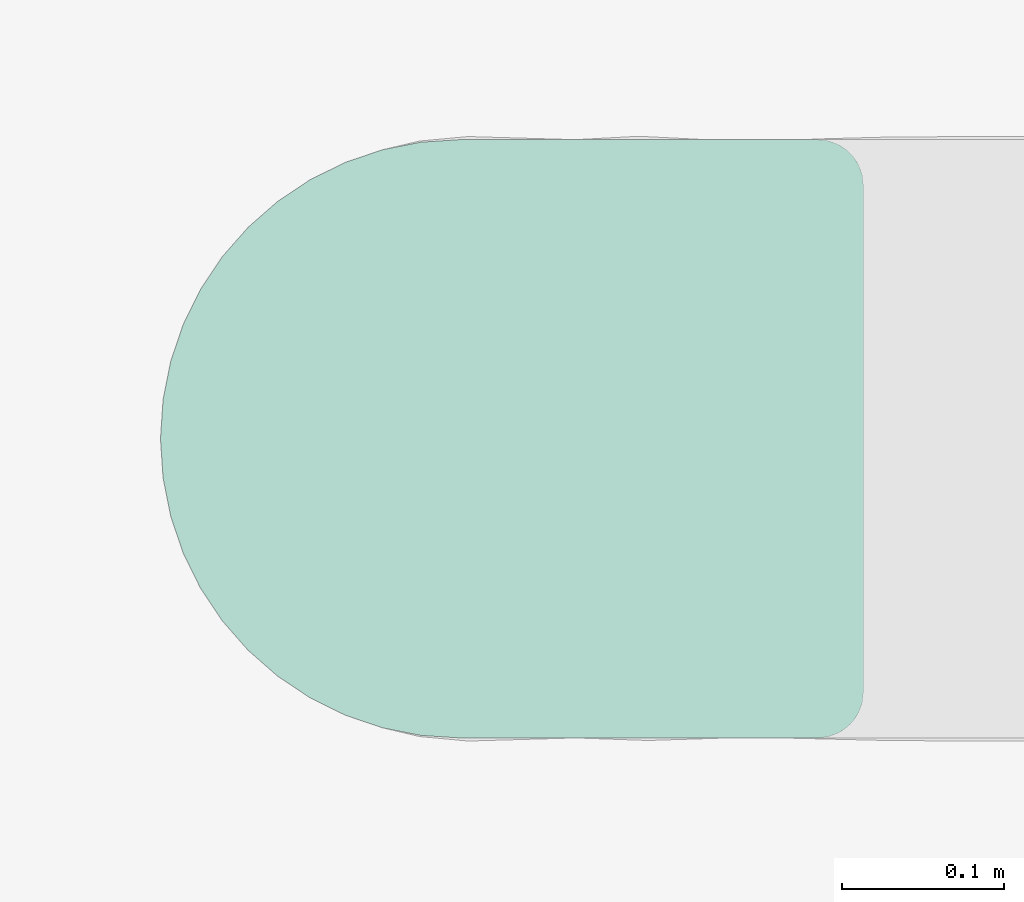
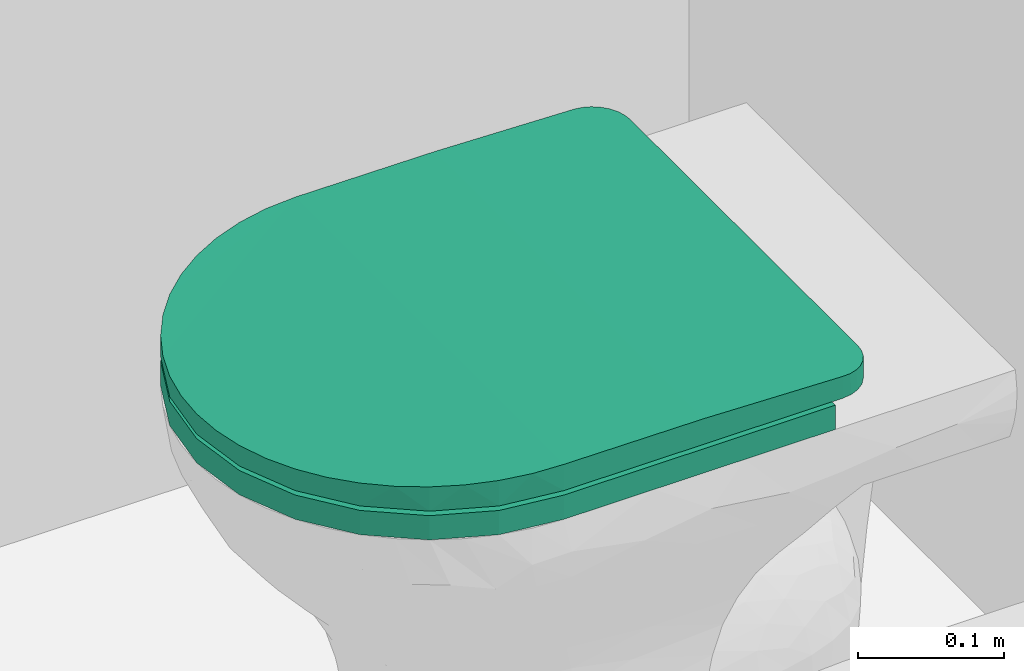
# One storey, part 6 of 8: 1 flow terminal.
"""IFC2X3 building model written with IfcOpenShell, lengths in metres."""

from ifc_helpers import new_model, entity, si_unit, converted_unit, derived_unit, direction, frame, origin, place, context, subcontext, project, spatial, faceted_brep, source, transform, mapped, material, element, save


model = new_model("IFC2X3")

# Units and contexts
model_context = context("Model", 3, precision=1e-05, world=origin(), true_north=direction((6.12303176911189e-17, 1.0)))
body_context = subcontext(model_context, "Body", "Model", "MODEL_VIEW")
ifc_project = project(units=[si_unit("LENGTHUNIT", "METRE"), si_unit("AREAUNIT", "SQUARE_METRE"), si_unit("VOLUMEUNIT", "CUBIC_METRE"), converted_unit("PLANEANGLEUNIT", "DEGREE", entity("IfcRatioMeasure", 0.0174532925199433), si_unit("PLANEANGLEUNIT", "RADIAN"), dimensions=[0, 0, 0, 0, 0, 0, 0]), si_unit("MASSUNIT", "GRAM", prefix="KILO"), derived_unit("MASSDENSITYUNIT", [(si_unit("MASSUNIT", "GRAM", prefix="KILO"), 1), (si_unit("LENGTHUNIT", "METRE"), -3)]), si_unit("TIMEUNIT", "SECOND"), si_unit("FREQUENCYUNIT", "HERTZ"), si_unit("THERMODYNAMICTEMPERATUREUNIT", "DEGREE_CELSIUS"), derived_unit("THERMALTRANSMITTANCEUNIT", [(si_unit("MASSUNIT", "GRAM", prefix="KILO"), 1), (si_unit("THERMODYNAMICTEMPERATUREUNIT", "KELVIN"), -1), (si_unit("TIMEUNIT", "SECOND"), -3)]), derived_unit("VOLUMETRICFLOWRATEUNIT", [(si_unit("LENGTHUNIT", "METRE"), 3), (si_unit("TIMEUNIT", "SECOND"), -1)]), si_unit("ELECTRICCURRENTUNIT", "AMPERE"), si_unit("ELECTRICVOLTAGEUNIT", "VOLT"), si_unit("POWERUNIT", "WATT"), si_unit("FORCEUNIT", "NEWTON", prefix="KILO"), si_unit("ILLUMINANCEUNIT", "LUX"), si_unit("LUMINOUSFLUXUNIT", "LUMEN"), si_unit("LUMINOUSINTENSITYUNIT", "CANDELA"), derived_unit("USERDEFINED", [(si_unit("MASSUNIT", "GRAM", prefix="KILO"), -1), (si_unit("LENGTHUNIT", "METRE"), -2), (si_unit("TIMEUNIT", "SECOND"), 3), (si_unit("LUMINOUSFLUXUNIT", "LUMEN"), 1)]), derived_unit("LINEARVELOCITYUNIT", [(si_unit("LENGTHUNIT", "METRE"), 1), (si_unit("TIMEUNIT", "SECOND"), -1)]), si_unit("PRESSUREUNIT", "PASCAL"), derived_unit("USERDEFINED", [(si_unit("LENGTHUNIT", "METRE"), -2), (si_unit("MASSUNIT", "GRAM", prefix="KILO"), 1), (si_unit("TIMEUNIT", "SECOND"), -2)])], contexts=[model_context])

# Site, building, storey, space
site_placement = place(None, origin())
site = spatial("IfcSite", under=ifc_project, at=site_placement, Name="Surface", CompositionType="ELEMENT")
building_placement = place(site_placement, origin())
building = spatial("IfcBuilding", under=site, at=building_placement, CompositionType="ELEMENT")
storey_placement = place(building_placement, origin())
storey = spatial("IfcBuildingStorey", under=building, at=storey_placement, Name="Nivel 0.0", CompositionType="ELEMENT", Elevation=0.0)
space_placement = place(storey_placement, origin())
space = spatial("IfcSpace", under=storey, at=space_placement, Name="6", CompositionType="ELEMENT", InteriorOrExteriorSpace="INTERNAL")

# Flow terminal
ifc_material = material(Name="Plastico - Ferrum - Urea - Blanco")
shared_shape = source(origin(), body_context, "Body", "Brep", [
    faceted_brep([(0.00159527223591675, 0.400390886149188, 0.0202499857), (0.00159527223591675, 0.400390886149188, 0.0), (0.00159527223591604, 0.185797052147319, 0.0), (0.00159527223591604, 0.185797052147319, 0.0202499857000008), (0.369998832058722, 0.185797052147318, 0.0), (0.369998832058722, 0.400390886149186, 0.0), (0.369998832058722, 0.400390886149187, 0.0202499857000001), (0.369998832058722, 0.185797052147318, 0.0202499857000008), (0.363722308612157, 0.138122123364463, 0.0202499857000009), (0.00787179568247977, 0.138122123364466, 0.0202499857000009), (0.0262736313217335, 0.0936961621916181, 0.0202499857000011), (0.0555467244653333, 0.0555467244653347, 0.0202499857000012), (0.0936961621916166, 0.0262736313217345, 0.0202499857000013), (0.138122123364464, 0.00787179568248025, 0.0202499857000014), (0.185797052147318, 0.00159527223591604, 0.0202499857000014), (0.233471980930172, 0.00787179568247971, 0.0202499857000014), (0.277897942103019, 0.0262736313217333, 0.0202499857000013), (0.316047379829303, 0.0555467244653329, 0.0202499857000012), (0.345320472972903, 0.0936961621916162, 0.0202499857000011), (0.363722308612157, 0.138122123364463, 0.0), (0.345320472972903, 0.0936961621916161, 0.0), (0.316047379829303, 0.055546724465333, 0.0), (0.277897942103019, 0.0262736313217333, 0.0), (0.233471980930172, 0.00787179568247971, 0.0), (0.185797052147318, 0.00159527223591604, 0.0), (0.138122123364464, 0.00787179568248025, 0.0), (0.0936961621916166, 0.0262736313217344, 0.0), (0.0555467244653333, 0.0555467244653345, 0.0), (0.0262736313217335, 0.0936961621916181, 0.0), (0.00787179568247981, 0.138122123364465, 0.0)], [[[0, 1, 2, 3]], [[4, 5, 6, 7]], [[8, 7, 6, 0, 3, 9, 10, 11, 12, 13, 14, 15, 16, 17, 18]], [[1, 0, 6, 5]], [[2, 1, 5, 4, 19, 20, 21, 22, 23, 24, 25, 26, 27, 28, 29]], [[29, 28, 10, 9]], [[2, 29, 9, 3]], [[26, 25, 13, 12]], [[27, 26, 12, 11]], [[28, 27, 11, 10]], [[14, 13, 25, 24]], [[22, 21, 17, 16]], [[23, 22, 16, 15]], [[8, 18, 20, 19]], [[21, 20, 18, 17]], [[4, 7, 8, 19]], [[23, 15, 14, 24]]]),
    faceted_brep([(0.00159527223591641, 0.296012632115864, 0.0454038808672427), (0.00159527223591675, 0.406206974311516, 0.0422630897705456), (0.00159527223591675, 0.406206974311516, 0.0239999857), (0.00159527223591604, 0.185797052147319, 0.0239999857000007), (0.00159527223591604, 0.185797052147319, 0.0459125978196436), (0.369998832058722, 0.185797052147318, 0.0239999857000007), (0.369998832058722, 0.406206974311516, 0.0239999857), (0.369998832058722, 0.406206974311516, 0.0422630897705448), (0.369998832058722, 0.296014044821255, 0.0454038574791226), (0.369998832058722, 0.185797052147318, 0.0459125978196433), (0.0396601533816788, 0.0736618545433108, 0.0437289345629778), (0.026273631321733, 0.0936961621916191, 0.023999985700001), (0.0555467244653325, 0.0555467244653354, 0.0239999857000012), (0.00317155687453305, 0.161750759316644, 0.0456738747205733), (0.0078717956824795, 0.138122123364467, 0.0239999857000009), (0.0156186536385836, 0.115301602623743, 0.0448579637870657), (0.138122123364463, 0.00787179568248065, 0.0239999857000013), (0.185797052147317, 0.00159527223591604, 0.0239999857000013), (0.161751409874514, 0.00317147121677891, 0.0409600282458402), (0.0936961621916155, 0.026273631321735, 0.0239999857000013), (0.11529900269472, 0.015619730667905, 0.0415274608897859), (0.138116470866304, 0.00787331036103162, 0.0411783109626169), (0.0736574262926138, 0.0396635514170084, 0.0425281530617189), (0.185798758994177, 0.00159527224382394, 0.040885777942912), (0.00787305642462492, 0.138117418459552, 0.0453171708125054), (0.0262752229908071, 0.0936934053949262, 0.0443190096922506), (0.0936895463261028, 0.0262774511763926, 0.0419865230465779), (0.0555446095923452, 0.0555488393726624, 0.0431204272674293), (0.209846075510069, 0.00317191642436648, 0.0409600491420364), (0.23347198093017, 0.0078717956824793, 0.0239999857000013), (0.233480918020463, 0.0078741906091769, 0.041178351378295), (0.256298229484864, 0.0156210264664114, 0.041527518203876), (0.345320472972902, 0.0936961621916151, 0.023999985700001), (0.363722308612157, 0.138122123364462, 0.0239999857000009), (0.355976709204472, 0.11530464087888, 0.0448580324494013), (0.316047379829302, 0.0555467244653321, 0.0239999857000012), (0.331935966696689, 0.0736644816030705, 0.0437290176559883), (0.277897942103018, 0.0262736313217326, 0.0239999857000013), (0.297939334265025, 0.0396655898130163, 0.0425282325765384), (0.368422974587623, 0.161754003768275, 0.0456739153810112), (0.277907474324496, 0.0262791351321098, 0.0419865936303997), (0.316051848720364, 0.0555511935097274, 0.0431205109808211), (0.345320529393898, 0.0936962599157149, 0.0443190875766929), (0.363721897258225, 0.13812058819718, 0.0453172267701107), (0.0297849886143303, 0.43439669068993, 0.0239999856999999), (0.341809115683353, 0.43439669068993, 0.0239999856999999), (0.349105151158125, 0.43343614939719, 0.0239999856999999), (0.355903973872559, 0.430619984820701, 0.0239999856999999), (0.361742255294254, 0.426140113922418, 0.0239999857), (0.366222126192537, 0.420301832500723, 0.0239999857), (0.369038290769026, 0.413503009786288, 0.0239999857), (0.00255581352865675, 0.413503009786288, 0.0239999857), (0.00537197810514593, 0.420301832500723, 0.0239999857), (0.00985184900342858, 0.426140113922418, 0.0239999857), (0.0156901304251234, 0.430619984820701, 0.0239999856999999), (0.0224889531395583, 0.43343614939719, 0.0239999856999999), (0.341809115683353, 0.434396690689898, 0.0410363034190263), (0.369291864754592, 0.412480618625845, 0.0420050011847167), (0.367206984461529, 0.418438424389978, 0.0417519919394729), (0.363848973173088, 0.423782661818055, 0.0415184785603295), (0.359385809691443, 0.428246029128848, 0.0413186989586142), (0.354040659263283, 0.431604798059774, 0.0411655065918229), (0.348081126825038, 0.43369009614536, 0.0410691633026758), (0.0297849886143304, 0.434396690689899, 0.0410363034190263), (0.00438711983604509, 0.418438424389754, 0.0417519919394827), (0.00230223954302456, 0.412480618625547, 0.0420050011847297), (0.0235129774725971, 0.433690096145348, 0.0410691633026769), (0.0175534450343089, 0.43160479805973, 0.041165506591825), (0.0122082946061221, 0.428246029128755, 0.0413186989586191), (0.00774513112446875, 0.423782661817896, 0.0415184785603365)], [[[0, 1, 2, 3, 4]], [[5, 6, 7, 8, 9]], [[10, 11, 12]], [[13, 3, 14]], [[14, 11, 15]], [[16, 17, 18]], [[19, 16, 20]], [[21, 16, 18]], [[12, 19, 22]], [[17, 23, 18]], [[21, 20, 16]], [[24, 14, 15]], [[3, 13, 4]], [[14, 24, 13]], [[11, 25, 15]], [[20, 26, 19]], [[25, 11, 10]], [[10, 12, 27]], [[27, 12, 22]], [[19, 26, 22]], [[17, 28, 23]], [[28, 17, 29]], [[30, 28, 29]], [[30, 29, 31]], [[32, 33, 34]], [[35, 32, 36]], [[37, 35, 38]], [[37, 31, 29]], [[39, 33, 5]], [[40, 31, 37]], [[38, 35, 41]], [[41, 35, 36]], [[37, 38, 40]], [[42, 32, 34]], [[33, 39, 43]], [[43, 34, 33]], [[36, 32, 42]], [[5, 9, 39]], [[44, 45, 46, 47, 48, 49, 50, 6, 5, 33, 32, 35, 37, 29, 17, 16, 19, 12, 11, 14, 3, 2, 51, 52, 53, 54, 55]], [[9, 31, 40]], [[31, 9, 30]], [[9, 28, 30]], [[40, 38, 9]], [[42, 34, 9]], [[9, 36, 42]], [[41, 36, 9]], [[41, 9, 38]], [[23, 28, 9]], [[21, 4, 20]], [[22, 26, 4]], [[26, 20, 4]], [[4, 21, 18]], [[25, 10, 4]], [[27, 4, 10]], [[15, 4, 24]], [[25, 4, 15]], [[4, 27, 22]], [[4, 18, 23]], [[34, 43, 9]], [[9, 4, 23]], [[8, 0, 9]], [[7, 56, 8]], [[57, 58, 7]], [[59, 60, 7]], [[60, 61, 7]], [[56, 7, 62]], [[7, 61, 62]], [[59, 7, 58]], [[56, 63, 8]], [[1, 0, 63]], [[4, 13, 24]], [[9, 0, 4]], [[1, 64, 65]], [[1, 66, 67]], [[67, 68, 1]], [[1, 69, 64]], [[1, 68, 69]], [[66, 1, 63]], [[63, 0, 8]], [[9, 43, 39]], [[55, 54, 67]], [[44, 55, 66]], [[66, 63, 44]], [[68, 67, 54]], [[66, 55, 67]], [[54, 53, 68]], [[53, 52, 69]], [[51, 2, 65]], [[52, 51, 64]], [[64, 69, 52]], [[1, 65, 2]], [[64, 51, 65]], [[53, 69, 68]], [[50, 49, 58]], [[6, 50, 57]], [[57, 7, 6]], [[59, 58, 49]], [[57, 50, 58]], [[49, 48, 59]], [[48, 47, 60]], [[46, 45, 62]], [[47, 46, 61]], [[61, 60, 47]], [[56, 62, 45]], [[61, 46, 62]], [[48, 60, 59]], [[56, 45, 44, 63]]]),
])
flow_terminal_placement = place(space_placement, frame((-5.24818630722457, -2.07084543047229, 0.372318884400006), z_axis=(0.0, 0.0, 1.0), x_axis=(0.0, -1.0, 0.0)))
element("IfcFlowTerminal", 1, at=flow_terminal_placement, inside=space, material=ifc_material, Name="Inodoro-Ferrum-Veneto-Tapa_y_Asiento:Tapa de Inodoro", ObjectType="Inodoro-Ferrum-Veneto-Tapa_y_Asiento:Tapa de Inodoro", context=body_context, shape_type="MappedRepresentation", body=[
    mapped(shared_shape, transform((0.0, 0.0, 0.0), scale=1.0)),
])

save(model, "model.ifc")
